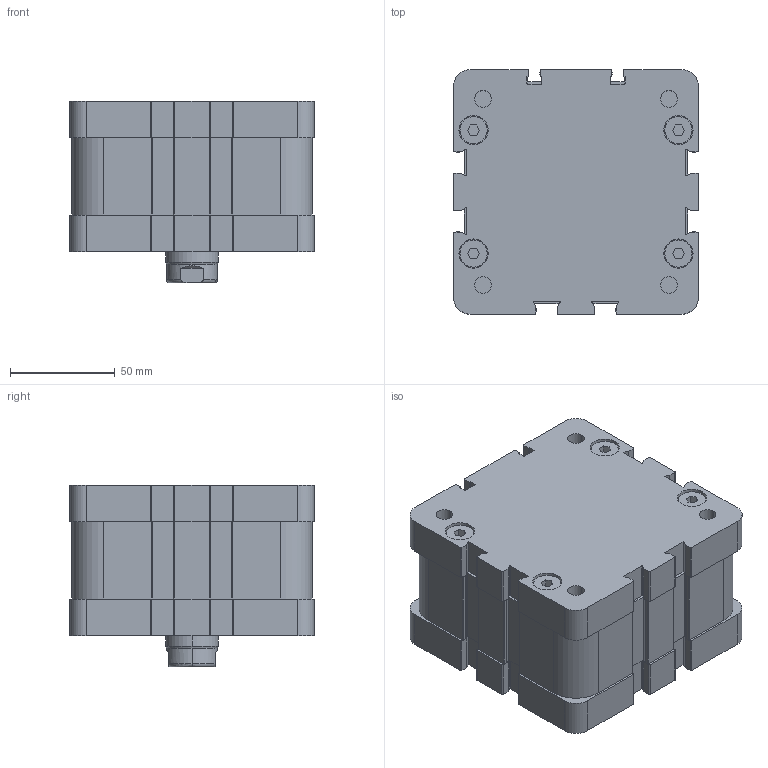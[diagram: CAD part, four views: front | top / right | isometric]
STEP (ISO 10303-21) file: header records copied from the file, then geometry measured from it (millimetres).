
FILE_DESCRIPTION((''),'2;1');
FILE_NAME('P11M31000005.stp','2010-02-25T19:41:29',('B. Petkovic 2010'),('AZ PNEUMATICA S.r.l.'),'Mechanical Desktop 2006','Mechanical Desktop 2006','Via Marco Biagi 6, I-20020 Misinto(MI) Italy, azpneu@tin.it');
FILE_SCHEMA(('CONFIG_CONTROL_DESIGN'));
Length unit declared in the file: millimetre
Products named in the file (2): P11M31000005; COMPACT CILINDRI
Assembly tree (1 placements, depth 2):
  P11M31000005
    COMPACT CILINDRI
Bounding box: 117 x 117 x 87 mm (x, y, z)
Volume: 919064.4 mm3; surface area: 82520.7 mm2
Topology: 1 solids, 1 shells, 564 faces, 1466 edges, 941 vertices
Faces by surface type: plane 362, cylinder 194, cone 6, torus 2
Entity records: 17347 total; most frequent: CARTESIAN_POINT 3055, DIRECTION 3024, ORIENTED_EDGE 2928, EDGE_CURVE 1464, VECTOR 1032, LINE 1032, AXIS2_PLACEMENT_3D 996, VERTEX_POINT 941
